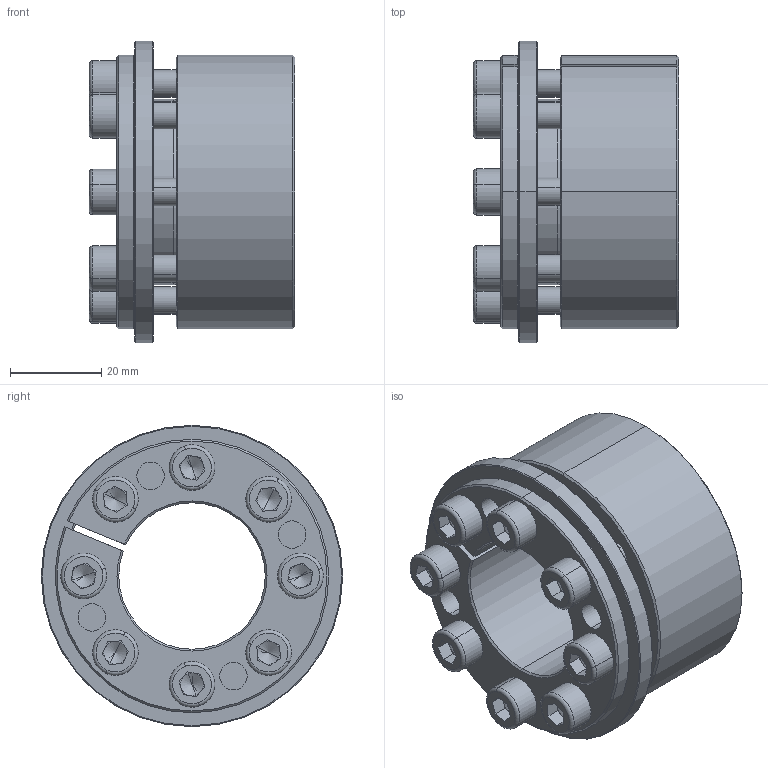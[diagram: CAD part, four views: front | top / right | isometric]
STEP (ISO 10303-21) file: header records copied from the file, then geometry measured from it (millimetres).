
FILE_DESCRIPTION (( 'STEP AP214' ), '1' );
FILE_NAME ('H5×°ÅäÌå32-60.STEP', '2022-07-26T02:02:59', ( '' ), ( '' ), 'SwSTEP 2.0', 'SolidWorks 2022', '' );
FILE_SCHEMA (( 'AUTOMOTIVE_DESIGN' ));
Length unit declared in the file: millimetre
Products named in the file (1): H5蚾饜极32-60
Bounding box: 45 x 66 x 66 mm (x, y, z)
Volume: 71207.5 mm3; surface area: 28851.7 mm2
Topology: 1 solids, 1 shells, 313 faces, 765 edges, 470 vertices
Faces by surface type: plane 130, cylinder 91, cone 76, torus 16
Entity records: 9228 total; most frequent: DIRECTION 1712, CARTESIAN_POINT 1605, ORIENTED_EDGE 1498, EDGE_CURVE 749, AXIS2_PLACEMENT_3D 673, VERTEX_POINT 470, EDGE_LOOP 371, VECTOR 366
